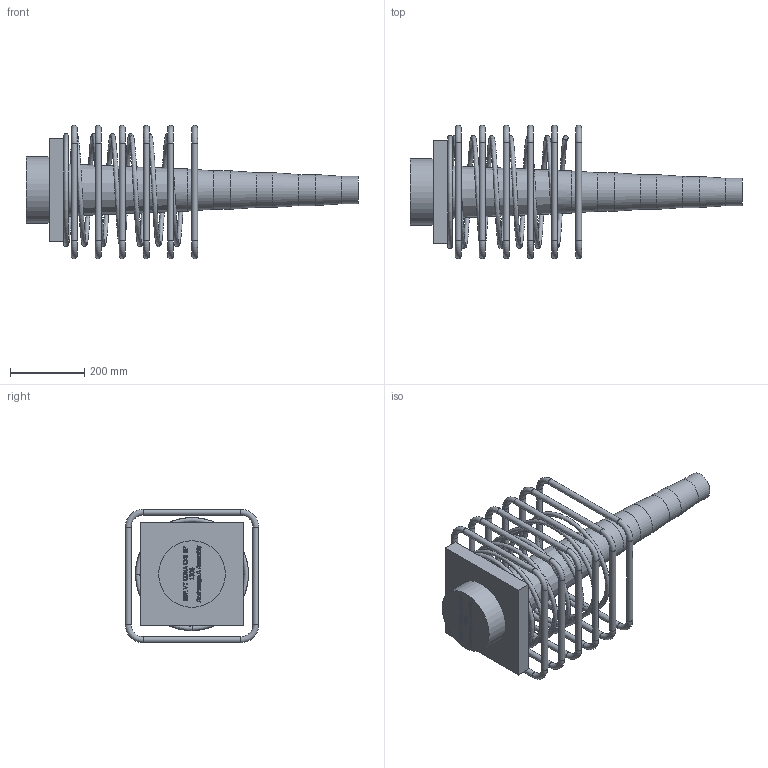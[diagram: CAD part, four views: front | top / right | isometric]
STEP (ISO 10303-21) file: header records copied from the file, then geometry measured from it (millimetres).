
FILE_DESCRIPTION(/* description */ (''),/* implementation_level */ '2;1');
FILE_NAME(/* name */ 'Z:\04 Publications\05 Give-out\BBR\6_3D_Models\BBR VT CONA CMI\BBR VT CONA CMI SP\01306\BBR VT CONA CMI SP 1306_Anchorage A Assembly_CS-34,28.stp',/* time_stamp */ '2017-05-10T08:59:08+02:00',/* author */ ('IP'),/* organization */ (''),/* preprocessor_version */ 'ST-DEVELOPER v16.1',/* originating_system */ 'Autodesk Inventor 2016',/* authorisation */ '');
FILE_SCHEMA (('AUTOMOTIVE_DESIGN { 1 0 10303 214 3 1 1 }'));
Length unit declared in the file: millimetre
Products named in the file (1): BBR VT CONA CMI SP 1306_Anchorage A Assembly_CS-34,28
Bounding box: 896.1 x 360 x 360 mm (x, y, z)
Volume: 14377235.4 mm3; surface area: 1129154.2 mm2
Topology: 8 solids, 8 shells, 680 faces, 1805 edges, 1185 vertices
Faces by surface type: plane 319, bspline 302, torus 29, cylinder 29, cone 1
Full cylindrical faces by diameter (mm): 16 x24, 74 x1, 84 x1, 94 x1, 104 x1, 180 x1
Entity records: 25809 total; most frequent: CARTESIAN_POINT 10455, ORIENTED_EDGE 3496, DIRECTION 1967, EDGE_CURVE 1745, VERTEX_POINT 1184, LINE 1075, VECTOR 1075, EDGE_LOOP 798
